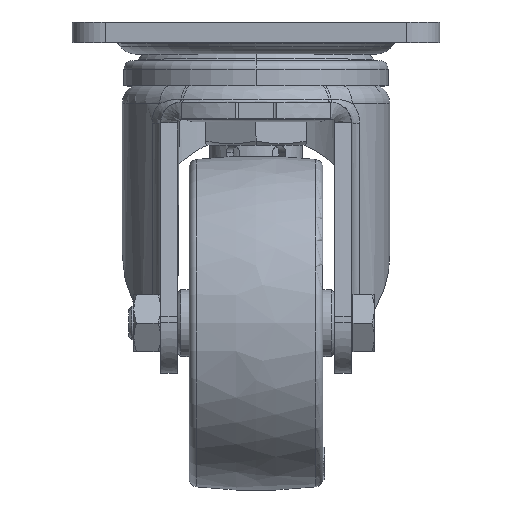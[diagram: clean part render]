
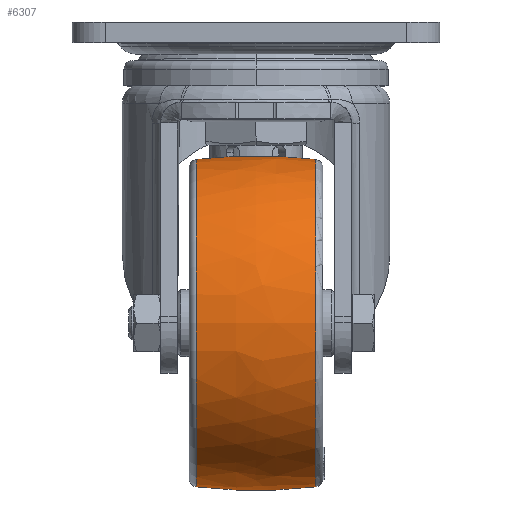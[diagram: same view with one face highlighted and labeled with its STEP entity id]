
A CAD part, top view. The second image highlights one B-rep face of the part: STEP entity #6307.
In plain terms, the highlighted free-form (B-spline) face has degree [3, 3] with [7, 4] control points.
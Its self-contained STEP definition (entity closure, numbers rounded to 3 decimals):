
#1111 = AXIS2_PLACEMENT_3D ( 'NONE', #37714, #31935, #48654 ) ;
#2398 = CARTESIAN_POINT ( 'NONE',  ( -17.797, 48.941, 0. ) ) ;
#3170 = AXIS2_PLACEMENT_3D ( 'NONE', #43484, #61014, #5126 ) ;
#5126 = DIRECTION ( 'NONE',  ( -0.119, 0.993, 0. ) ) ;
#6307 = ADVANCED_FACE ( 'NONE', ( #67344 ), #52974, .T. ) ;
#6773 = VERTEX_POINT ( 'NONE', #22817 ) ;
#10243 = CARTESIAN_POINT ( 'NONE',  ( 6.2, 31.006, -50.384 ) ) ;
#15600 = CARTESIAN_POINT ( 'NONE',  ( -18.505, 30.065, -48.854 ) ) ;
#15851 = CARTESIAN_POINT ( 'NONE',  ( 6.2, -52.231, -27.781 ) ) ;
#16591 = CARTESIAN_POINT ( 'NONE',  ( -18.505, -50.646, -26.938 ) ) ;
#19387 = EDGE_CURVE ( 'NONE', #6773, #48777, #38164, .T. ) ;
#20361 = ORIENTED_EDGE ( 'NONE', *, *, #58652, .F. ) ;
#21177 = CARTESIAN_POINT ( 'NONE',  ( -18.505, 0., -48.854 ) ) ;
#21676 = CARTESIAN_POINT ( 'NONE',  ( -18.505, 50.646, -26.938 ) ) ;
#22696 = CIRCLE ( 'NONE', #1111, 150. ) ;
#22817 = CARTESIAN_POINT ( 'NONE',  ( 17.797, 48.941, 0. ) ) ;
#26254 = ORIENTED_EDGE ( 'NONE', *, *, #19387, .T. ) ;
#26992 = CARTESIAN_POINT ( 'NONE',  ( 18.505, 50.646, -26.938 ) ) ;
#27705 = CARTESIAN_POINT ( 'NONE',  ( -6.2, -52.231, -27.781 ) ) ;
#31935 = DIRECTION ( 'NONE',  ( 0., 0., 1. ) ) ;
#32242 = EDGE_CURVE ( 'NONE', #55514, #48777, #22696, .T. ) ;
#32335 = CARTESIAN_POINT ( 'NONE',  ( -6.2, -50.284, 3.164 ) ) ;
#32577 = CARTESIAN_POINT ( 'NONE',  ( 6.2, 50.284, 3.164 ) ) ;
#32695 = DIRECTION ( 'NONE',  ( 0., 1., 0. ) ) ;
#32989 = CARTESIAN_POINT ( 'NONE',  ( -17.797, 0., 0. ) ) ;
#34087 = VERTEX_POINT ( 'NONE', #2398 ) ;
#37714 = CARTESIAN_POINT ( 'NONE',  ( 0., 100., 0. ) ) ;
#38123 = CARTESIAN_POINT ( 'NONE',  ( -6.2, 0., -50.384 ) ) ;
#38164 = CIRCLE ( 'NONE', #69668, 48.941 ) ;
#40301 = CARTESIAN_POINT ( 'NONE',  ( -17.797, -48.941, 0. ) ) ;
#43481 = CARTESIAN_POINT ( 'NONE',  ( 18.505, -48.758, 3.068 ) ) ;
#43484 = CARTESIAN_POINT ( 'NONE',  ( 0., -100., 0. ) ) ;
#43639 = EDGE_LOOP ( 'NONE', ( #65732, #26254, #48316, #20361 ) ) ;
#43720 = CARTESIAN_POINT ( 'NONE',  ( 6.2, -50.284, 3.164 ) ) ;
#43941 = CARTESIAN_POINT ( 'NONE',  ( -6.2, 52.231, -27.781 ) ) ;
#44063 = CARTESIAN_POINT ( 'NONE',  ( 17.797, 0., 0. ) ) ;
#44361 = DIRECTION ( 'NONE',  ( 0., 1., 0. ) ) ;
#44606 = DIRECTION ( 'NONE',  ( -1., 0., 0. ) ) ;
#46245 = EDGE_CURVE ( 'NONE', #34087, #6773, #67713, .T. ) ;
#48316 = ORIENTED_EDGE ( 'NONE', *, *, #32242, .F. ) ;
#48654 = DIRECTION ( 'NONE',  ( -0.119, -0.993, 0. ) ) ;
#48777 = VERTEX_POINT ( 'NONE', #58929 ) ;
#48824 = CARTESIAN_POINT ( 'NONE',  ( 6.2, 0., -50.384 ) ) ;
#49065 = CARTESIAN_POINT ( 'NONE',  ( -6.2, 50.284, 3.164 ) ) ;
#49555 = CARTESIAN_POINT ( 'NONE',  ( 18.505, -30.065, -48.854 ) ) ;
#49935 = DIRECTION ( 'NONE',  ( -1., 0., 0. ) ) ;
#50360 = CIRCLE ( 'NONE', #62266, 48.941 ) ;
#52974 =( BOUNDED_SURFACE ( )  B_SPLINE_SURFACE ( 3, 3, ( 
 ( #65803, #32335, #43720, #43481 ),
 ( #16591, #27705, #15851, #54702 ),
 ( #71857, #55402, #71139, #49555 ),
 ( #21177, #38123, #48824, #60304 ),
 ( #15600, #54456, #10243, #71617 ),
 ( #21676, #43941, #66047, #26992 ),
 ( #60063, #49065, #32577, #55176 ) ),
 .UNSPECIFIED., .F., .F., .T. ) 
 B_SPLINE_SURFACE_WITH_KNOTS ( ( 4, 3, 4 ),
 ( 4, 4 ),
 ( 0., 1., 2. ),
 ( 0., 1. ),
 .UNSPECIFIED. ) 
 GEOMETRIC_REPRESENTATION_ITEM ( )  RATIONAL_B_SPLINE_SURFACE ( (
 ( 1.192, 1.186, 1.186, 1.192),
 ( 0.941, 0.936, 0.936, 0.941),
 ( 0.941, 0.936, 0.936, 0.941),
 ( 1.192, 1.186, 1.186, 1.192),
 ( 0.941, 0.936, 0.936, 0.941),
 ( 0.941, 0.936, 0.936, 0.941),
 ( 1.192, 1.186, 1.186, 1.192) ) ) 
 REPRESENTATION_ITEM ( '' )  SURFACE ( )  );
#54456 = CARTESIAN_POINT ( 'NONE',  ( -6.2, 31.006, -50.384 ) ) ;
#54702 = CARTESIAN_POINT ( 'NONE',  ( 18.505, -50.646, -26.938 ) ) ;
#55176 = CARTESIAN_POINT ( 'NONE',  ( 18.505, 48.758, 3.068 ) ) ;
#55402 = CARTESIAN_POINT ( 'NONE',  ( -6.2, -31.006, -50.384 ) ) ;
#55514 = VERTEX_POINT ( 'NONE', #40301 ) ;
#58652 = EDGE_CURVE ( 'NONE', #34087, #55514, #50360, .T. ) ;
#58929 = CARTESIAN_POINT ( 'NONE',  ( 17.797, -48.941, 0. ) ) ;
#60063 = CARTESIAN_POINT ( 'NONE',  ( -18.505, 48.758, 3.068 ) ) ;
#60304 = CARTESIAN_POINT ( 'NONE',  ( 18.505, 0., -48.854 ) ) ;
#61014 = DIRECTION ( 'NONE',  ( 0., 0., -1. ) ) ;
#62266 = AXIS2_PLACEMENT_3D ( 'NONE', #32989, #44606, #44361 ) ;
#65732 = ORIENTED_EDGE ( 'NONE', *, *, #46245, .T. ) ;
#65803 = CARTESIAN_POINT ( 'NONE',  ( -18.505, -48.758, 3.068 ) ) ;
#66047 = CARTESIAN_POINT ( 'NONE',  ( 6.2, 52.231, -27.781 ) ) ;
#67344 = FACE_OUTER_BOUND ( 'NONE', #43639, .T. ) ;
#67713 = CIRCLE ( 'NONE', #3170, 150. ) ;
#69668 = AXIS2_PLACEMENT_3D ( 'NONE', #44063, #49935, #32695 ) ;
#71139 = CARTESIAN_POINT ( 'NONE',  ( 6.2, -31.006, -50.384 ) ) ;
#71617 = CARTESIAN_POINT ( 'NONE',  ( 18.505, 30.065, -48.854 ) ) ;
#71857 = CARTESIAN_POINT ( 'NONE',  ( -18.505, -30.065, -48.854 ) ) ;
